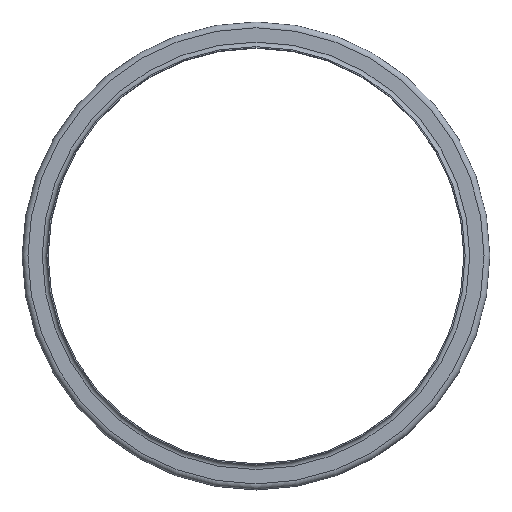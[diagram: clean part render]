
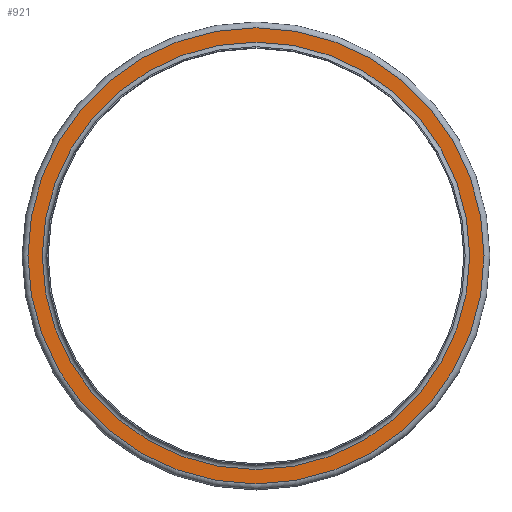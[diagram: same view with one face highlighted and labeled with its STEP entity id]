
A CAD part, top view. The second image highlights one B-rep face of the part: STEP entity #921.
In plain terms, the highlighted planar face has unit normal (0, 0, 1).
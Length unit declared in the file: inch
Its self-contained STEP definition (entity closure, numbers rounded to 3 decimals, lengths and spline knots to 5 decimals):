
#98=FACE_BOUND('',#272,.T.);
#165=FACE_OUTER_BOUND('',#271,.T.);
#271=EDGE_LOOP('',(#772));
#272=EDGE_LOOP('',(#773));
#385=CIRCLE('',#1110,10.28);
#386=CIRCLE('',#1112,10.97);
#466=VERTEX_POINT('',#1734);
#467=VERTEX_POINT('',#1738);
#571=EDGE_CURVE('',#466,#466,#385,.T.);
#572=EDGE_CURVE('',#467,#467,#386,.T.);
#772=ORIENTED_EDGE('',*,*,#572,.F.);
#773=ORIENTED_EDGE('',*,*,#571,.T.);
#854=PLANE('',#1111);
#921=ADVANCED_FACE('',(#165,#98),#854,.T.);
#1110=AXIS2_PLACEMENT_3D('',#1736,#1446,#1447);
#1111=AXIS2_PLACEMENT_3D('',#1737,#1448,#1449);
#1112=AXIS2_PLACEMENT_3D('',#1739,#1450,#1451);
#1446=DIRECTION('center_axis',(0.,0.,-1.));
#1447=DIRECTION('ref_axis',(1.,0.,0.));
#1448=DIRECTION('center_axis',(0.,0.,1.));
#1449=DIRECTION('ref_axis',(1.,0.,0.));
#1450=DIRECTION('center_axis',(0.,0.,-1.));
#1451=DIRECTION('ref_axis',(1.,0.,0.));
#1734=CARTESIAN_POINT('',(10.28,0.,-0.22));
#1736=CARTESIAN_POINT('Origin',(0.,0.,-0.22));
#1737=CARTESIAN_POINT('Origin',(0.,10.97,-0.22));
#1738=CARTESIAN_POINT('',(10.97,0.,-0.22));
#1739=CARTESIAN_POINT('Origin',(0.,0.,-0.22));
